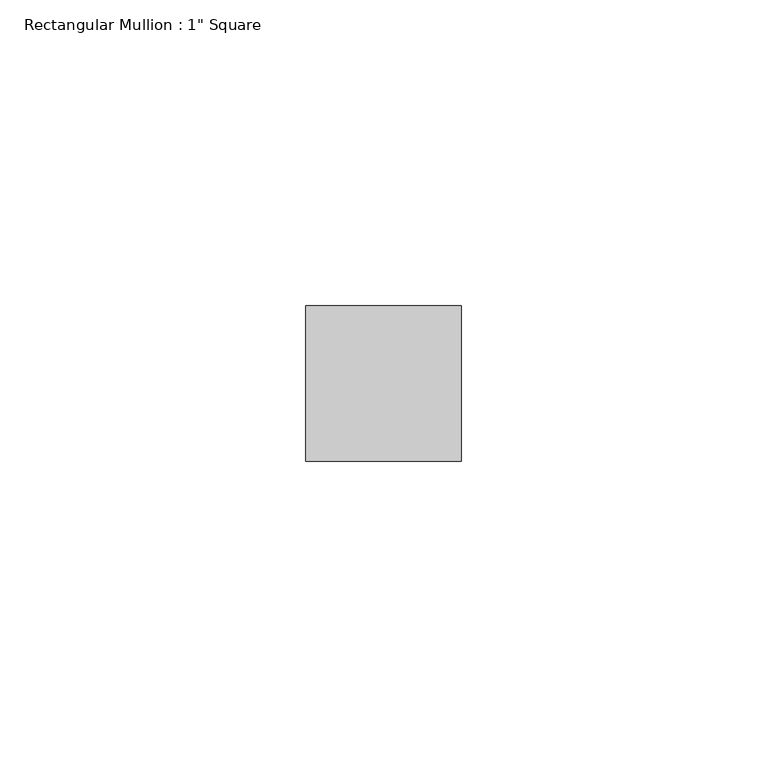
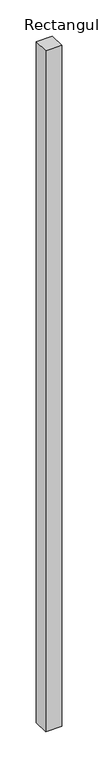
"""IFC4 building model written with IfcOpenShell, lengths in millimetres: member geometry."""

import ifcopenshell
import ifcopenshell.guid

model = None  # the IFC model being written
_history = None  # IfcOwnerHistory: only IFC2X3 demands one
_inside = {}  # id of a spatial element -> (the spatial element, [elements in it])
_under = {}  # id of a project, library or spatial element -> (it, [spatial elements below it])
_declared = {}  # id of a project -> (the project, [libraries it declares])
_typed = {}  # id of a type object -> (the type object, [elements of that type])
_made_of = {}  # id of a material, layer set ... -> (it, [elements and type objects made of it])


def new_model(schema):
    """Start an empty IFC model of exactly this schema.

    Asked for "IFC4X3", IfcOpenShell would pick the latest addendum, in which some entities
    have other attributes; the version numbers below select the first issue.
    IFC2X3 requires an IfcOwnerHistory on every rooted entity: one is made here for all.
    """
    global model, _history
    if schema == "IFC4X3":
        model = ifcopenshell.file(schema_version=(4, 3, 0, 0))
    else:
        model = ifcopenshell.file(schema=schema)
    _inside.clear()
    _under.clear()
    _declared.clear()
    _typed.clear()
    _made_of.clear()
    _history = None
    if model.schema == "IFC2X3":
        org = make("IfcOrganization", Name="unknown")
        user = make(
            "IfcPersonAndOrganization",
            ThePerson=make("IfcPerson", FamilyName="unknown"),
            TheOrganization=org,
        )
        app = make(
            "IfcApplication",
            ApplicationDeveloper=org,
            Version="unknown",
            ApplicationFullName="unknown",
            ApplicationIdentifier="unknown",
        )
        _history = make(
            "IfcOwnerHistory",
            OwningUser=user,
            OwningApplication=app,
            ChangeAction="ADDED",
            CreationDate=0,
        )
    return model


def make(cls, **values):
    """One entity of the class cls with the attributes given. An attribute that is None is left unset."""
    return model.create_entity(
        cls, **{name: value for name, value in values.items() if value is not None}
    )


def rooted(cls, **values):
    """An entity with a GlobalId (a new one), such as an element, a storey or a relation."""
    return make(cls, GlobalId=ifcopenshell.guid.new(), OwnerHistory=_history, **values)


def si_unit(unit_type, name, prefix=None):
    """IfcSIUnit, for example si_unit("LENGTHUNIT", "METRE", prefix="MILLI")."""
    return make("IfcSIUnit", UnitType=unit_type, Prefix=prefix, Name=name)


def assignment(units):
    """IfcUnitAssignment: the units of a project."""
    return None if units is None else make("IfcUnitAssignment", Units=units)


def point(xyz):
    """IfcCartesianPoint."""
    return None if xyz is None else make("IfcCartesianPoint", Coordinates=xyz)


def direction(xyz):
    """IfcDirection."""
    return None if xyz is None else make("IfcDirection", DirectionRatios=xyz)


def frame(location, z_axis=None, x_axis=None):
    """IfcAxis2Placement3D, a coordinate frame: its origin and axes. An axis left out is left unset."""
    return make(
        "IfcAxis2Placement3D",
        Location=point(location),
        Axis=direction(z_axis),
        RefDirection=direction(x_axis),
    )


def origin():
    """The frame at (0, 0, 0) with its axes left unset."""
    return frame((0.0, 0.0, 0.0))


def place(relative_to, where):
    """IfcLocalPlacement: puts the frame where relative to a parent placement (None: the world)."""
    return make(
        "IfcLocalPlacement", PlacementRelTo=relative_to, RelativePlacement=where
    )


def context(
    kind, dimensions, precision=None, world=None, true_north=None, identifier=None
):
    """IfcGeometricRepresentationContext, for example the 3D "Model" context."""
    return make(
        "IfcGeometricRepresentationContext",
        ContextIdentifier=identifier,
        ContextType=kind,
        CoordinateSpaceDimension=dimensions,
        Precision=precision,
        WorldCoordinateSystem=world,
        TrueNorth=true_north,
    )


def project(units=None, contexts=None):
    """IfcProject with its units and contexts."""
    return rooted(
        "IfcProject",
        Name="project",
        RepresentationContexts=contexts,
        UnitsInContext=assignment(units),
    )


def spatial(cls, under=None, at=None, **own):
    """A site, building, storey or space (cls), placed at a placement, below another one or the project."""
    s = rooted(cls, ObjectPlacement=at, **own)
    if under is not None:
        _under.setdefault(under.id(), (under, []))[1].append(s)
    return s


def polyline(points):
    """IfcPolyline through the points."""
    return make("IfcPolyline", Points=[point(p) for p in points])


def outline(outer, holes=None, kind="AREA"):
    """IfcArbitraryClosedProfileDef: a profile drawn as a closed curve; with holes, ...WithVoids."""
    if holes is None:
        return make("IfcArbitraryClosedProfileDef", ProfileType=kind, OuterCurve=outer)
    return make(
        "IfcArbitraryProfileDefWithVoids",
        ProfileType=kind,
        OuterCurve=outer,
        InnerCurves=holes,
    )


def extrude(swept, where, along, depth):
    """IfcExtrudedAreaSolid: the profile swept, set in the frame where, extruded along a direction by depth."""
    return make(
        "IfcExtrudedAreaSolid",
        SweptArea=swept,
        Position=where,
        ExtrudedDirection=direction(along),
        Depth=depth,
    )


def shape(context_of_items, identifier, shape_type, items):
    """IfcShapeRepresentation: the items that make up one representation, for example the "Body"."""
    return make(
        "IfcShapeRepresentation",
        ContextOfItems=context_of_items,
        RepresentationIdentifier=identifier,
        RepresentationType=shape_type,
        Items=items,
    )


def source(mapping_origin, context_of_items, identifier, shape_type, items):
    """IfcRepresentationMap: a shape defined once, which mapped items show again and again."""
    return make(
        "IfcRepresentationMap",
        MappingOrigin=mapping_origin,
        MappedRepresentation=shape(context_of_items, identifier, shape_type, items),
    )


def transform(
    local_origin,
    x_axis=None,
    y_axis=None,
    z_axis=None,
    scale=None,
    scale2=None,
    scale3=None,
    uniform=True,
):
    """IfcCartesianTransformationOperator3D, or its non-uniform kind. x_axis, y_axis, z_axis: its Axis1, 2, 3."""
    if uniform:
        return make(
            "IfcCartesianTransformationOperator3D",
            Axis1=direction(x_axis),
            Axis2=direction(y_axis),
            LocalOrigin=point(local_origin),
            Scale=scale,
            Axis3=direction(z_axis),
        )
    return make(
        "IfcCartesianTransformationOperator3DnonUniform",
        Axis1=direction(x_axis),
        Axis2=direction(y_axis),
        LocalOrigin=point(local_origin),
        Scale=scale,
        Axis3=direction(z_axis),
        Scale2=scale2,
        Scale3=scale3,
    )


def mapped(mapping_source, mapping_target):
    """IfcMappedItem: shows the shape of a source again, moved by a transform."""
    return make(
        "IfcMappedItem", MappingSource=mapping_source, MappingTarget=mapping_target
    )


def made_of(thing, what):
    """Note that an element or type object is made of a material, layer set ...; save() writes the relation."""
    if what is not None:
        _made_of.setdefault(what.id(), (what, []))[1].append(thing)
    return thing


def element(
    cls,
    number,
    at=None,
    inside=None,
    cuts=None,
    type_object=None,
    material=None,
    context=None,
    identifier="Body",
    shape_type=None,
    held_by="IfcProductDefinitionShape",
    body=None,
    shapes=None,
    **own,
):
    """One element of the class cls, such as IfcWall. Its Tag is "e" and its number.

    at: its placement. inside: the storey or other place that contains it. cuts: it is an
    opening in that element (IfcRelVoidsElement). A single representation is given by context,
    identifier, shape_type and body (its items); several are given by shapes. held_by: the class
    of the entity that holds the representations. save() writes the other relations.
    """
    e = rooted(cls, Tag="e%d" % number, ObjectPlacement=at, **own)
    if body is not None:
        shapes = [shape(context, identifier, shape_type, body)]
    if shapes is not None:
        e.Representation = make(held_by, Representations=shapes)
    if inside is not None:
        _inside.setdefault(inside.id(), (inside, []))[1].append(e)
    if cuts is not None:
        rooted(
            "IfcRelVoidsElement", RelatingBuildingElement=cuts, RelatedOpeningElement=e
        )
    if type_object is not None:
        _typed.setdefault(type_object.id(), (type_object, []))[1].append(e)
    return made_of(e, material)


def aggregate(whole, parts):
    """IfcRelAggregates: a whole, such as a stair, and the parts it consists of."""
    return rooted("IfcRelAggregates", RelatingObject=whole, RelatedObjects=parts)


def save(model, path):
    """Write the relations noted so far, then the file.

    IfcRelAggregates (storeys below a building ...), IfcRelContainedInSpatialStructure (elements
    in a storey), IfcRelDefinesByType, IfcRelAssociatesMaterial and IfcRelDeclares: one each for
    every whole, place, type object, material and project.
    """
    for whole, parts in _under.values():
        aggregate(whole, parts)
    for where, things in _inside.values():
        rooted(
            "IfcRelContainedInSpatialStructure",
            RelatedElements=things,
            RelatingStructure=where,
        )
    for kind, things in _typed.values():
        rooted("IfcRelDefinesByType", RelatedObjects=things, RelatingType=kind)
    for what, things in _made_of.values():
        rooted("IfcRelAssociatesMaterial", RelatedObjects=things, RelatingMaterial=what)
    for by, libraries in _declared.values():
        rooted("IfcRelDeclares", RelatingContext=by, RelatedDefinitions=libraries)
    model.write(path)


def member_1029786c(model_context):
    return source(origin(), model_context, "Body", "SweptSolid", [
        extrude(outline(polyline([(12.7, 12.7), (12.7, -12.7), (-12.7, -12.7), (-12.7, 12.7), (12.7, 12.7)])), frame((0.0, 0.0, -1144.0), z_axis=(0.0, 0.0, 1.0), x_axis=(1.0, 0.0, 0.0)), (0.0, 0.0, 1.0), 1144.0),
    ])


if __name__ == "__main__":
    model = new_model("IFC4")
    model_context = context("Model", 3, world=origin())
    ifc_project = project(units=[si_unit("LENGTHUNIT", "METRE", prefix="MILLI")], contexts=[model_context])
    site = spatial("IfcSite", under=ifc_project)
    building = spatial("IfcBuilding", under=site)
    placement = place(None, origin())
    member_shape = member_1029786c(model_context)
    element("IfcMember", 1, ObjectType="Rectangular Mullion : 1\" Square", at=placement, inside=building, context=model_context, shape_type="MappedRepresentation", body=[
        mapped(member_shape, transform((0.0, 0.0, 0.0), x_axis=(1.0, 0.0, 0.0), y_axis=(0.0, 1.0, 0.0), z_axis=(0.0, 0.0, 1.0))),
    ])
    save(model, "model.ifc")
